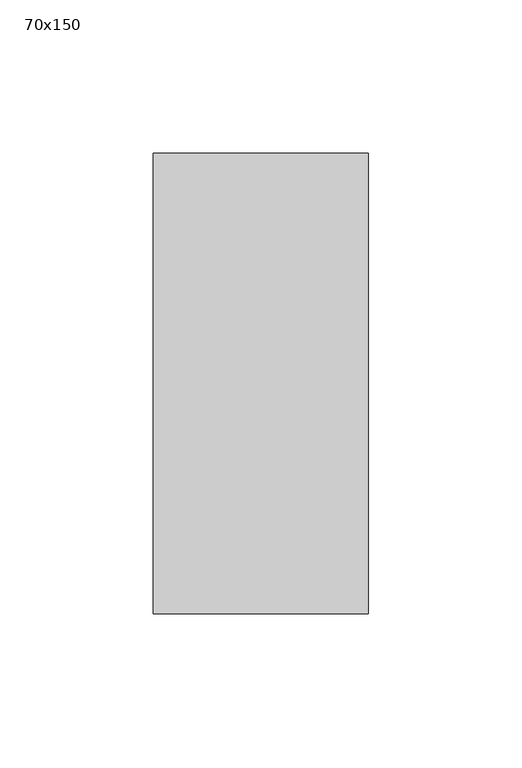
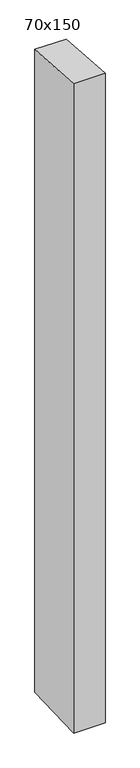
"""IFC4 building model written with IfcOpenShell, lengths in millimetres: member geometry, 長方形のマリオン : 70x150."""

from ifc_helpers import new_model, si_unit, frame, origin, place, context, project, spatial, polyline, outline, extrude, source, transform, mapped, element, save


def member_70x150_846b0a58(model_context):
    return source(origin(), model_context, "Body", "SweptSolid", [
        extrude(outline(polyline([(-75.0, 4.8333526), (75.0, -4.8333526), (75.0, -1523.0886439), (-75.0, -1528.8188309), (-75.0, 4.8333526)])), frame((-70.0, 0.0, 0.0), z_axis=(1.0, 0.0, 0.0), x_axis=(0.0, 1.0, 0.0)), (0.0, 0.0, 1.0), 70.0),
    ])


if __name__ == "__main__":
    model = new_model("IFC4")
    model_context = context("Model", 3, world=origin())
    ifc_project = project(units=[si_unit("LENGTHUNIT", "METRE", prefix="MILLI")], contexts=[model_context])
    site = spatial("IfcSite", under=ifc_project)
    building = spatial("IfcBuilding", under=site)
    placement = place(None, origin())
    member_70x150_shape = member_70x150_846b0a58(model_context)
    element("IfcMember", 1, ObjectType="長方形のマリオン : 70x150", at=placement, inside=building, context=model_context, shape_type="MappedRepresentation", body=[
        mapped(member_70x150_shape, transform((0.0, 0.0, 0.0), x_axis=(1.0, 0.0, 0.0), y_axis=(0.0, 1.0, 0.0), z_axis=(0.0, 0.0, 1.0))),
    ])
    save(model, "model.ifc")
